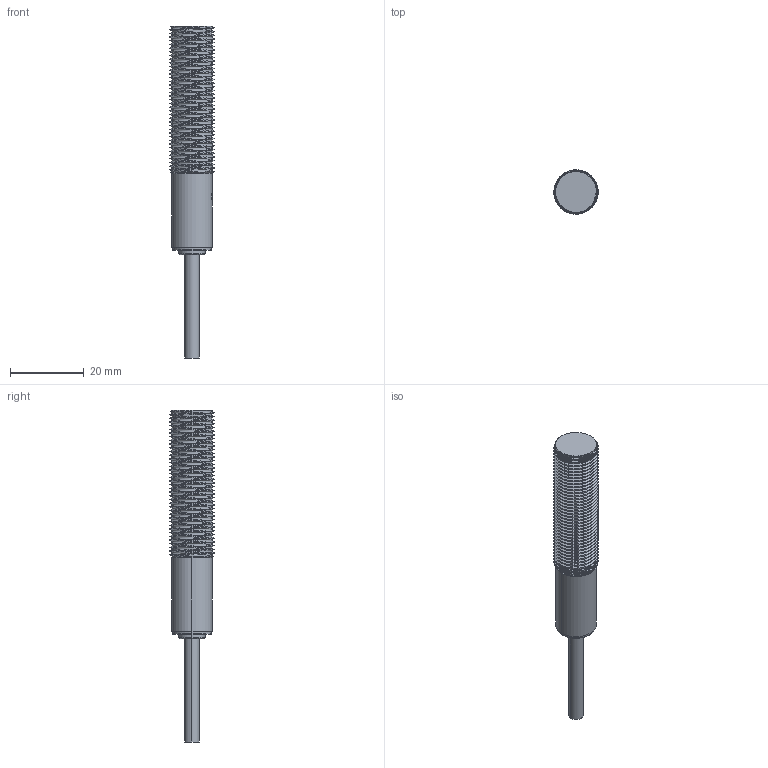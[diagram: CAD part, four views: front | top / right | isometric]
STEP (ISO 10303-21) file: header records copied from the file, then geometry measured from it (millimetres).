
FILE_DESCRIPTION (( 'STEP AP203' ), '1' );
FILE_NAME ('CN12P-B.STEP', '2025-09-04T07:35:37', ( '' ), ( '' ), 'SwSTEP 2.0', 'SolidWorks 2023', '' );
FILE_SCHEMA (( 'CONFIG_CONTROL_DESIGN' ));
Length unit declared in the file: millimetre
Products named in the file (1): CN12P-B
Bounding box: 12 x 11.98 x 90 mm (x, y, z)
Volume: 5662.8 mm3; surface area: 4493.6 mm2
Topology: 2 solids, 2 shells, 262 faces, 709 edges, 462 vertices
Faces by surface type: cylinder 203, plane 33, torus 14, cone 10, bspline 2
Entity records: 12492 total; most frequent: CARTESIAN_POINT 6728, ORIENTED_EDGE 1418, DIRECTION 1007, EDGE_CURVE 709, VERTEX_POINT 462, AXIS2_PLACEMENT_3D 377, EDGE_LOOP 273, FACE_OUTER_BOUND 262
